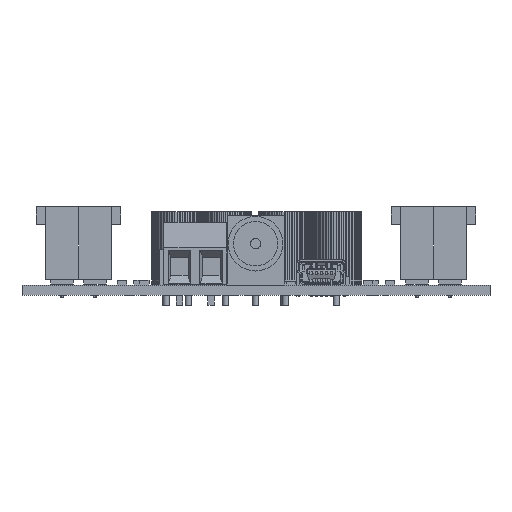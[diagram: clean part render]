
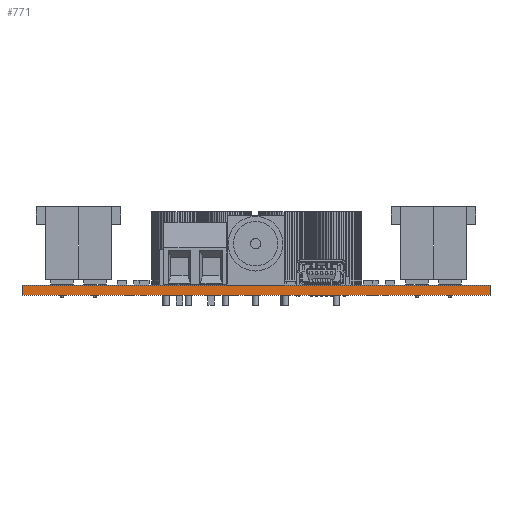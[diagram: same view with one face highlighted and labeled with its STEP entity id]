
A CAD part, front view. The second image highlights one B-rep face of the part: STEP entity #771.
In plain terms, the highlighted planar face has unit normal (0, -1, 0).
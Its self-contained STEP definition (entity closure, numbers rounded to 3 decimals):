
#508 = EDGE_CURVE('',#509,#511,#513,.T.);
#509 = VERTEX_POINT('',#510);
#510 = CARTESIAN_POINT('',(25.4,25.4,0.));
#511 = VERTEX_POINT('',#512);
#512 = CARTESIAN_POINT('',(25.4,25.4,1.6));
#513 = SURFACE_CURVE('',#514,(#518,#530),.PCURVE_S1.);
#514 = LINE('',#515,#516);
#515 = CARTESIAN_POINT('',(25.4,25.4,0.));
#516 = VECTOR('',#517,1.);
#517 = DIRECTION('',(0.,0.,1.));
#518 = PCURVE('',#519,#524);
#519 = PLANE('',#520);
#520 = AXIS2_PLACEMENT_3D('',#521,#522,#523);
#521 = CARTESIAN_POINT('',(25.4,25.4,0.));
#522 = DIRECTION('',(-1.,0.,0.));
#523 = DIRECTION('',(0.,1.,0.));
#524 = DEFINITIONAL_REPRESENTATION('',(#525),#529);
#525 = LINE('',#526,#527);
#526 = CARTESIAN_POINT('',(0.,0.));
#527 = VECTOR('',#528,1.);
#528 = DIRECTION('',(0.,-1.));
#529 = ( GEOMETRIC_REPRESENTATION_CONTEXT(2) 
PARAMETRIC_REPRESENTATION_CONTEXT() REPRESENTATION_CONTEXT('2D SPACE',''
  ) );
#530 = PCURVE('',#531,#536);
#531 = PLANE('',#532);
#532 = AXIS2_PLACEMENT_3D('',#533,#534,#535);
#533 = CARTESIAN_POINT('',(99.06,25.4,0.));
#534 = DIRECTION('',(0.,-1.,0.));
#535 = DIRECTION('',(-1.,0.,0.));
#536 = DEFINITIONAL_REPRESENTATION('',(#537),#541);
#537 = LINE('',#538,#539);
#538 = CARTESIAN_POINT('',(73.66,0.));
#539 = VECTOR('',#540,1.);
#540 = DIRECTION('',(0.,-1.));
#541 = ( GEOMETRIC_REPRESENTATION_CONTEXT(2) 
PARAMETRIC_REPRESENTATION_CONTEXT() REPRESENTATION_CONTEXT('2D SPACE',''
  ) );
#559 = PLANE('',#560);
#560 = AXIS2_PLACEMENT_3D('',#561,#562,#563);
#561 = CARTESIAN_POINT('',(25.4,25.4,1.6));
#562 = DIRECTION('',(0.,0.,1.));
#563 = DIRECTION('',(1.,0.,0.));
#613 = PLANE('',#614);
#614 = AXIS2_PLACEMENT_3D('',#615,#616,#617);
#615 = CARTESIAN_POINT('',(25.4,25.4,0.));
#616 = DIRECTION('',(0.,0.,1.));
#617 = DIRECTION('',(1.,0.,0.));
#668 = PLANE('',#669);
#669 = AXIS2_PLACEMENT_3D('',#670,#671,#672);
#670 = CARTESIAN_POINT('',(99.06,129.54,0.));
#671 = DIRECTION('',(1.,0.,0.));
#672 = DIRECTION('',(0.,-1.,0.));
#706 = VERTEX_POINT('',#707);
#707 = CARTESIAN_POINT('',(99.06,25.4,1.6));
#728 = EDGE_CURVE('',#729,#706,#731,.T.);
#729 = VERTEX_POINT('',#730);
#730 = CARTESIAN_POINT('',(99.06,25.4,0.));
#731 = SURFACE_CURVE('',#732,(#736,#743),.PCURVE_S1.);
#732 = LINE('',#733,#734);
#733 = CARTESIAN_POINT('',(99.06,25.4,0.));
#734 = VECTOR('',#735,1.);
#735 = DIRECTION('',(0.,0.,1.));
#736 = PCURVE('',#668,#737);
#737 = DEFINITIONAL_REPRESENTATION('',(#738),#742);
#738 = LINE('',#739,#740);
#739 = CARTESIAN_POINT('',(104.14,0.));
#740 = VECTOR('',#741,1.);
#741 = DIRECTION('',(0.,-1.));
#742 = ( GEOMETRIC_REPRESENTATION_CONTEXT(2) 
PARAMETRIC_REPRESENTATION_CONTEXT() REPRESENTATION_CONTEXT('2D SPACE',''
  ) );
#743 = PCURVE('',#531,#744);
#744 = DEFINITIONAL_REPRESENTATION('',(#745),#749);
#745 = LINE('',#746,#747);
#746 = CARTESIAN_POINT('',(0.,0.));
#747 = VECTOR('',#748,1.);
#748 = DIRECTION('',(0.,-1.));
#749 = ( GEOMETRIC_REPRESENTATION_CONTEXT(2) 
PARAMETRIC_REPRESENTATION_CONTEXT() REPRESENTATION_CONTEXT('2D SPACE',''
  ) );
#771 = ADVANCED_FACE('',(#772),#531,.T.);
#772 = FACE_BOUND('',#773,.T.);
#773 = EDGE_LOOP('',(#774,#775,#796,#797));
#774 = ORIENTED_EDGE('',*,*,#728,.T.);
#775 = ORIENTED_EDGE('',*,*,#776,.T.);
#776 = EDGE_CURVE('',#706,#511,#777,.T.);
#777 = SURFACE_CURVE('',#778,(#782,#789),.PCURVE_S1.);
#778 = LINE('',#779,#780);
#779 = CARTESIAN_POINT('',(99.06,25.4,1.6));
#780 = VECTOR('',#781,1.);
#781 = DIRECTION('',(-1.,0.,0.));
#782 = PCURVE('',#531,#783);
#783 = DEFINITIONAL_REPRESENTATION('',(#784),#788);
#784 = LINE('',#785,#786);
#785 = CARTESIAN_POINT('',(0.,-1.6));
#786 = VECTOR('',#787,1.);
#787 = DIRECTION('',(1.,0.));
#788 = ( GEOMETRIC_REPRESENTATION_CONTEXT(2) 
PARAMETRIC_REPRESENTATION_CONTEXT() REPRESENTATION_CONTEXT('2D SPACE',''
  ) );
#789 = PCURVE('',#559,#790);
#790 = DEFINITIONAL_REPRESENTATION('',(#791),#795);
#791 = LINE('',#792,#793);
#792 = CARTESIAN_POINT('',(73.66,0.));
#793 = VECTOR('',#794,1.);
#794 = DIRECTION('',(-1.,0.));
#795 = ( GEOMETRIC_REPRESENTATION_CONTEXT(2) 
PARAMETRIC_REPRESENTATION_CONTEXT() REPRESENTATION_CONTEXT('2D SPACE',''
  ) );
#796 = ORIENTED_EDGE('',*,*,#508,.F.);
#797 = ORIENTED_EDGE('',*,*,#798,.F.);
#798 = EDGE_CURVE('',#729,#509,#799,.T.);
#799 = SURFACE_CURVE('',#800,(#804,#811),.PCURVE_S1.);
#800 = LINE('',#801,#802);
#801 = CARTESIAN_POINT('',(99.06,25.4,0.));
#802 = VECTOR('',#803,1.);
#803 = DIRECTION('',(-1.,0.,0.));
#804 = PCURVE('',#531,#805);
#805 = DEFINITIONAL_REPRESENTATION('',(#806),#810);
#806 = LINE('',#807,#808);
#807 = CARTESIAN_POINT('',(0.,0.));
#808 = VECTOR('',#809,1.);
#809 = DIRECTION('',(1.,0.));
#810 = ( GEOMETRIC_REPRESENTATION_CONTEXT(2) 
PARAMETRIC_REPRESENTATION_CONTEXT() REPRESENTATION_CONTEXT('2D SPACE',''
  ) );
#811 = PCURVE('',#613,#812);
#812 = DEFINITIONAL_REPRESENTATION('',(#813),#817);
#813 = LINE('',#814,#815);
#814 = CARTESIAN_POINT('',(73.66,0.));
#815 = VECTOR('',#816,1.);
#816 = DIRECTION('',(-1.,0.));
#817 = ( GEOMETRIC_REPRESENTATION_CONTEXT(2) 
PARAMETRIC_REPRESENTATION_CONTEXT() REPRESENTATION_CONTEXT('2D SPACE',''
  ) );
